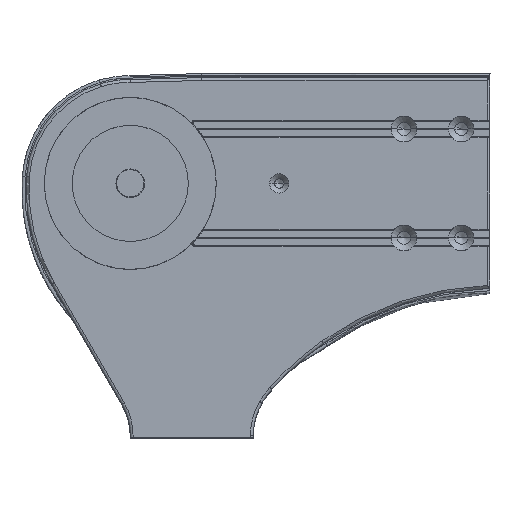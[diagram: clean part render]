
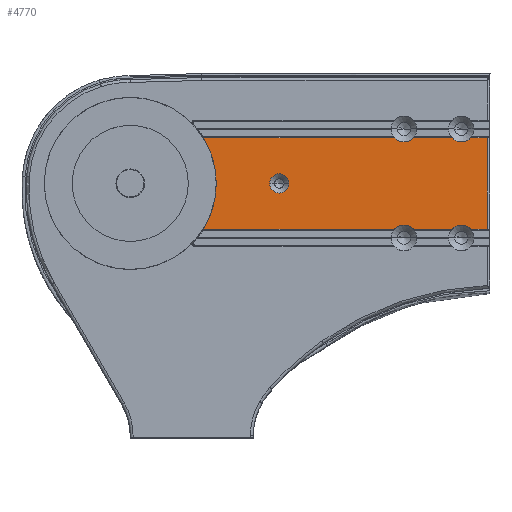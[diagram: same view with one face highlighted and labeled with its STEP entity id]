
A CAD part, top view. The second image highlights one B-rep face of the part: STEP entity #4770.
In plain terms, the highlighted planar face has unit normal (0, 0, 1).
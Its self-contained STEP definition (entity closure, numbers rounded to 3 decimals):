
#232 = EDGE_CURVE ( 'NONE', #909, #2412, #3683, .T. ) ;
#245 = AXIS2_PLACEMENT_3D ( 'NONE', #752, #7592, #8939 ) ;
#652 = CARTESIAN_POINT ( 'NONE',  ( 249.04, -32., 116.5 ) ) ;
#673 = VERTEX_POINT ( 'NONE', #6365 ) ;
#752 = CARTESIAN_POINT ( 'NONE',  ( 231.04, 38., 116.5 ) ) ;
#852 = CIRCLE ( 'NONE', #939, 60. ) ;
#909 = VERTEX_POINT ( 'NONE', #6198 ) ;
#939 = AXIS2_PLACEMENT_3D ( 'NONE', #9849, #10053, #13301 ) ;
#1475 = CIRCLE ( 'NONE', #17744, 8.96 ) ;
#1536 = CARTESIAN_POINT ( 'NONE',  ( 198.113, 32., 116.5 ) ) ;
#1671 = DIRECTION ( 'NONE',  ( 0., 0., 1. ) ) ;
#1768 = CARTESIAN_POINT ( 'NONE',  ( 110.72, 0., 116.5 ) ) ;
#2346 = EDGE_CURVE ( 'NONE', #6790, #16244, #17578, .T. ) ;
#2412 = VERTEX_POINT ( 'NONE', #16474 ) ;
#2555 = CIRCLE ( 'NONE', #12543, 2. ) ;
#2743 = CARTESIAN_POINT ( 'NONE',  ( 184.385, -32., 116.5 ) ) ;
#2888 = ORIENTED_EDGE ( 'NONE', *, *, #11725, .T. ) ;
#2936 = DIRECTION ( 'NONE',  ( 1., 0., 0. ) ) ;
#3097 = AXIS2_PLACEMENT_3D ( 'NONE', #12447, #4647, #15607 ) ;
#3142 = VECTOR ( 'NONE', #5251, 1000. ) ;
#3250 = DIRECTION ( 'NONE',  ( 1., 0., 0. ) ) ;
#3512 = VERTEX_POINT ( 'NONE', #19908 ) ;
#3683 = CIRCLE ( 'NONE', #245, 8.96 ) ;
#3698 = ORIENTED_EDGE ( 'NONE', *, *, #7076, .T. ) ;
#3761 = LINE ( 'NONE', #17609, #15023 ) ;
#3932 = ORIENTED_EDGE ( 'NONE', *, *, #13411, .F. ) ;
#4013 = VERTEX_POINT ( 'NONE', #11947 ) ;
#4133 = DIRECTION ( 'NONE',  ( 1., 0., 0. ) ) ;
#4334 = VERTEX_POINT ( 'NONE', #7907 ) ;
#4403 = EDGE_LOOP ( 'NONE', ( #3932, #16567 ) ) ;
#4530 = VERTEX_POINT ( 'NONE', #9104 ) ;
#4647 = DIRECTION ( 'NONE',  ( 0., 0., 1. ) ) ;
#4770 = ADVANCED_FACE ( 'NONE', ( #10332, #14031 ), #12956, .T. ) ;
#4853 = CARTESIAN_POINT ( 'NONE',  ( 104., 0., 116.5 ) ) ;
#4966 = VERTEX_POINT ( 'NONE', #16451 ) ;
#5132 = CARTESIAN_POINT ( 'NONE',  ( 60., 0., 116.5 ) ) ;
#5185 = CIRCLE ( 'NONE', #18507, 2. ) ;
#5251 = DIRECTION ( 'NONE',  ( 1., 0., 0. ) ) ;
#5340 = LINE ( 'NONE', #652, #3142 ) ;
#5360 = ORIENTED_EDGE ( 'NONE', *, *, #6373, .F. ) ;
#5455 = ORIENTED_EDGE ( 'NONE', *, *, #5881, .F. ) ;
#5524 = EDGE_CURVE ( 'NONE', #4334, #12186, #6154, .T. ) ;
#5666 = EDGE_CURVE ( 'NONE', #4530, #673, #5185, .T. ) ;
#5669 = CIRCLE ( 'NONE', #11363, 6.72 ) ;
#5724 = EDGE_CURVE ( 'NONE', #12748, #4530, #17909, .T. ) ;
#5762 = VERTEX_POINT ( 'NONE', #1768 ) ;
#5881 = EDGE_CURVE ( 'NONE', #12748, #4966, #1475, .T. ) ;
#6011 = ORIENTED_EDGE ( 'NONE', *, *, #2346, .F. ) ;
#6154 = LINE ( 'NONE', #17238, #11770 ) ;
#6174 = EDGE_CURVE ( 'NONE', #909, #4966, #16033, .T. ) ;
#6198 = CARTESIAN_POINT ( 'NONE',  ( 224.385, 32., 116.5 ) ) ;
#6230 = ORIENTED_EDGE ( 'NONE', *, *, #14464, .F. ) ;
#6365 = CARTESIAN_POINT ( 'NONE',  ( 50.707, 32.074, 116.5 ) ) ;
#6373 = EDGE_CURVE ( 'NONE', #16244, #673, #852, .T. ) ;
#6790 = VERTEX_POINT ( 'NONE', #14316 ) ;
#6878 = VERTEX_POINT ( 'NONE', #8203 ) ;
#7076 = EDGE_CURVE ( 'NONE', #17692, #15272, #3761, .T. ) ;
#7527 = EDGE_LOOP ( 'NONE', ( #17577, #5360, #6011, #10911, #18268, #9468, #11105, #6230, #14228, #3698, #2888, #16309, #10788, #5455, #12170 ) ) ;
#7536 = DIRECTION ( 'NONE',  ( 1., 0., 0. ) ) ;
#7592 = DIRECTION ( 'NONE',  ( 0., 0., 1. ) ) ;
#7710 = CARTESIAN_POINT ( 'NONE',  ( 197.694, -32., 116.5 ) ) ;
#7803 = DIRECTION ( 'NONE',  ( 1., 0., 0. ) ) ;
#7891 = CARTESIAN_POINT ( 'NONE',  ( 231.04, -38., 116.5 ) ) ;
#7907 = CARTESIAN_POINT ( 'NONE',  ( 51.247, -32., 116.5 ) ) ;
#7997 = CARTESIAN_POINT ( 'NONE',  ( 51.247, 32., 116.5 ) ) ;
#8053 = CIRCLE ( 'NONE', #15715, 8.96 ) ;
#8203 = CARTESIAN_POINT ( 'NONE',  ( 237.694, -32., 116.5 ) ) ;
#8252 = DIRECTION ( 'NONE',  ( 0., 0., 1. ) ) ;
#8939 = DIRECTION ( 'NONE',  ( 1., 0., 0. ) ) ;
#9104 = CARTESIAN_POINT ( 'NONE',  ( 51.247, 32., 116.5 ) ) ;
#9249 = AXIS2_PLACEMENT_3D ( 'NONE', #19322, #16040, #17486 ) ;
#9270 = CARTESIAN_POINT ( 'NONE',  ( 51.247, -34., 116.5 ) ) ;
#9468 = ORIENTED_EDGE ( 'NONE', *, *, #18659, .F. ) ;
#9469 = DIRECTION ( 'NONE',  ( 1., 0., 0. ) ) ;
#9690 = CIRCLE ( 'NONE', #18650, 6.72 ) ;
#9849 = CARTESIAN_POINT ( 'NONE',  ( 0., 0., 116.5 ) ) ;
#10053 = DIRECTION ( 'NONE',  ( 0., 0., 1. ) ) ;
#10150 = DIRECTION ( 'NONE',  ( 1., 0., 0. ) ) ;
#10268 = DIRECTION ( 'NONE',  ( 0., 0., 1. ) ) ;
#10332 = FACE_BOUND ( 'NONE', #4403, .T. ) ;
#10515 = DIRECTION ( 'NONE',  ( 0., 0., 1. ) ) ;
#10725 = CARTESIAN_POINT ( 'NONE',  ( 191.04, -38., 116.5 ) ) ;
#10788 = ORIENTED_EDGE ( 'NONE', *, *, #6174, .T. ) ;
#10911 = ORIENTED_EDGE ( 'NONE', *, *, #15778, .T. ) ;
#11105 = ORIENTED_EDGE ( 'NONE', *, *, #14792, .T. ) ;
#11363 = AXIS2_PLACEMENT_3D ( 'NONE', #14963, #10268, #4133 ) ;
#11725 = EDGE_CURVE ( 'NONE', #15272, #2412, #14133, .T. ) ;
#11770 = VECTOR ( 'NONE', #7803, 1000. ) ;
#11947 = CARTESIAN_POINT ( 'NONE',  ( 97.28, 0., 116.5 ) ) ;
#11948 = CARTESIAN_POINT ( 'NONE',  ( 249.04, 32., 116.5 ) ) ;
#12170 = ORIENTED_EDGE ( 'NONE', *, *, #5724, .T. ) ;
#12186 = VERTEX_POINT ( 'NONE', #2743 ) ;
#12188 = DIRECTION ( 'NONE',  ( -1., 0., 0. ) ) ;
#12379 = DIRECTION ( 'NONE',  ( 1., 0., 0. ) ) ;
#12447 = CARTESIAN_POINT ( 'NONE',  ( 0., 0., 116.5 ) ) ;
#12543 = AXIS2_PLACEMENT_3D ( 'NONE', #9270, #20268, #12379 ) ;
#12748 = VERTEX_POINT ( 'NONE', #16940 ) ;
#12954 = EDGE_CURVE ( 'NONE', #6878, #17692, #5340, .T. ) ;
#12956 = PLANE ( 'NONE',  #9249 ) ;
#13301 = DIRECTION ( 'NONE',  ( 1., 0., 0. ) ) ;
#13411 = EDGE_CURVE ( 'NONE', #5762, #4013, #9690, .T. ) ;
#13451 = AXIS2_PLACEMENT_3D ( 'NONE', #7891, #1671, #3250 ) ;
#13604 = VECTOR ( 'NONE', #7536, 1000. ) ;
#13838 = CARTESIAN_POINT ( 'NONE',  ( 223.967, -32., 116.5 ) ) ;
#14031 = FACE_OUTER_BOUND ( 'NONE', #7527, .T. ) ;
#14133 = LINE ( 'NONE', #15160, #16334 ) ;
#14228 = ORIENTED_EDGE ( 'NONE', *, *, #12954, .T. ) ;
#14316 = CARTESIAN_POINT ( 'NONE',  ( 50.707, -32.074, 116.5 ) ) ;
#14362 = CARTESIAN_POINT ( 'NONE',  ( 51.247, 34., 116.5 ) ) ;
#14464 = EDGE_CURVE ( 'NONE', #6878, #3512, #18512, .T. ) ;
#14774 = CARTESIAN_POINT ( 'NONE',  ( 191.04, 38., 116.5 ) ) ;
#14792 = EDGE_CURVE ( 'NONE', #15369, #3512, #18257, .T. ) ;
#14846 = DIRECTION ( 'NONE',  ( 0., 0., 1. ) ) ;
#14963 = CARTESIAN_POINT ( 'NONE',  ( 104., 0., 116.5 ) ) ;
#15023 = VECTOR ( 'NONE', #19303, 1000. ) ;
#15160 = CARTESIAN_POINT ( 'NONE',  ( 238.113, 32., 116.5 ) ) ;
#15272 = VERTEX_POINT ( 'NONE', #11948 ) ;
#15369 = VERTEX_POINT ( 'NONE', #7710 ) ;
#15607 = DIRECTION ( 'NONE',  ( 1., 0., 0. ) ) ;
#15649 = DIRECTION ( 'NONE',  ( -1., 0., 0. ) ) ;
#15715 = AXIS2_PLACEMENT_3D ( 'NONE', #10725, #10515, #2936 ) ;
#15778 = EDGE_CURVE ( 'NONE', #6790, #4334, #2555, .T. ) ;
#15803 = DIRECTION ( 'NONE',  ( -1., 0., 0. ) ) ;
#15871 = DIRECTION ( 'NONE',  ( 0., 0., -1. ) ) ;
#15933 = VECTOR ( 'NONE', #15803, 1000. ) ;
#16033 = LINE ( 'NONE', #1536, #19691 ) ;
#16040 = DIRECTION ( 'NONE',  ( 0., 0., 1. ) ) ;
#16244 = VERTEX_POINT ( 'NONE', #5132 ) ;
#16309 = ORIENTED_EDGE ( 'NONE', *, *, #232, .F. ) ;
#16334 = VECTOR ( 'NONE', #12188, 1000. ) ;
#16451 = CARTESIAN_POINT ( 'NONE',  ( 197.694, 32., 116.5 ) ) ;
#16474 = CARTESIAN_POINT ( 'NONE',  ( 237.694, 32., 116.5 ) ) ;
#16567 = ORIENTED_EDGE ( 'NONE', *, *, #19339, .F. ) ;
#16940 = CARTESIAN_POINT ( 'NONE',  ( 184.385, 32., 116.5 ) ) ;
#17238 = CARTESIAN_POINT ( 'NONE',  ( 183.967, -32., 116.5 ) ) ;
#17486 = DIRECTION ( 'NONE',  ( 1., 0., 0. ) ) ;
#17577 = ORIENTED_EDGE ( 'NONE', *, *, #5666, .T. ) ;
#17578 = CIRCLE ( 'NONE', #3097, 60. ) ;
#17609 = CARTESIAN_POINT ( 'NONE',  ( 249.04, 32.5, 116.5 ) ) ;
#17692 = VERTEX_POINT ( 'NONE', #19062 ) ;
#17744 = AXIS2_PLACEMENT_3D ( 'NONE', #14774, #8252, #19214 ) ;
#17909 = LINE ( 'NONE', #7997, #15933 ) ;
#18257 = LINE ( 'NONE', #13838, #13604 ) ;
#18268 = ORIENTED_EDGE ( 'NONE', *, *, #5524, .T. ) ;
#18507 = AXIS2_PLACEMENT_3D ( 'NONE', #14362, #15871, #9469 ) ;
#18512 = CIRCLE ( 'NONE', #13451, 8.96 ) ;
#18650 = AXIS2_PLACEMENT_3D ( 'NONE', #4853, #14846, #10150 ) ;
#18659 = EDGE_CURVE ( 'NONE', #15369, #12186, #8053, .T. ) ;
#19062 = CARTESIAN_POINT ( 'NONE',  ( 249.04, -32., 116.5 ) ) ;
#19214 = DIRECTION ( 'NONE',  ( 1., 0., 0. ) ) ;
#19303 = DIRECTION ( 'NONE',  ( 0., 1., 0. ) ) ;
#19322 = CARTESIAN_POINT ( 'NONE',  ( -44.001, -176.306, 116.5 ) ) ;
#19339 = EDGE_CURVE ( 'NONE', #4013, #5762, #5669, .T. ) ;
#19691 = VECTOR ( 'NONE', #15649, 1000. ) ;
#19908 = CARTESIAN_POINT ( 'NONE',  ( 224.385, -32., 116.5 ) ) ;
#20268 = DIRECTION ( 'NONE',  ( 0., 0., -1. ) ) ;
